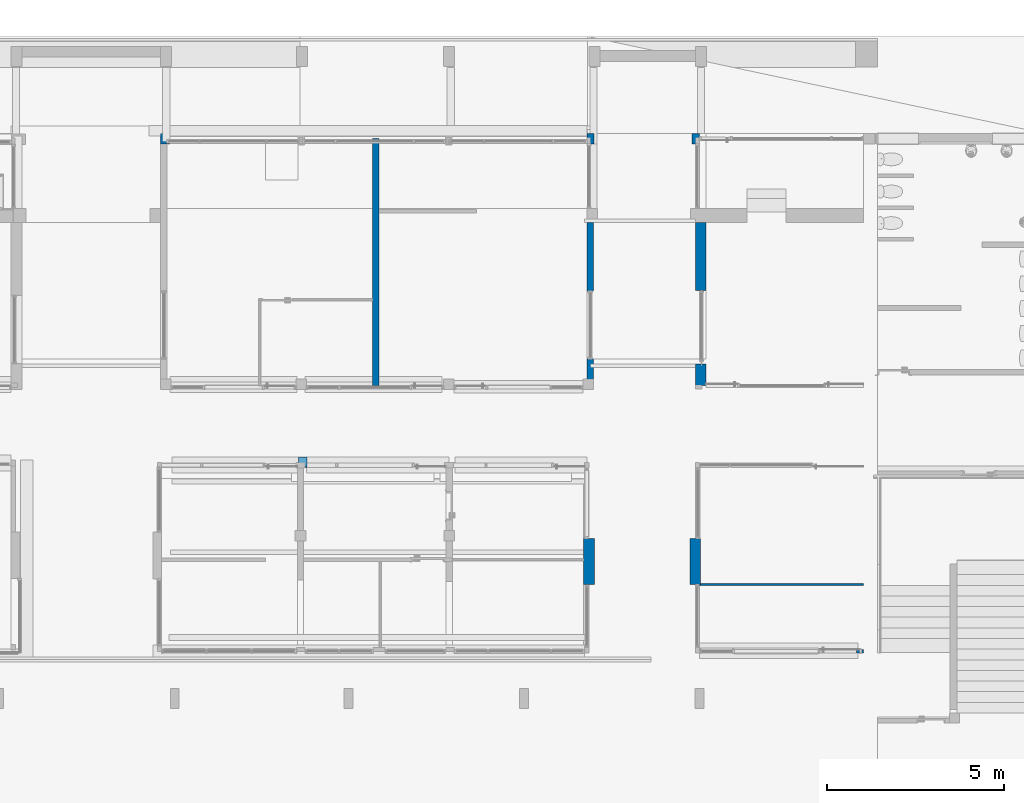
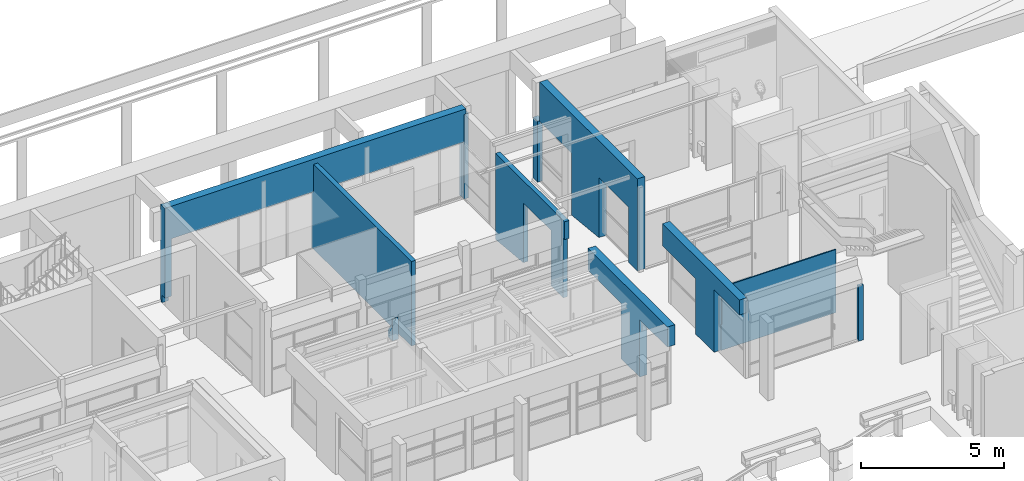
# One storey, part 90 of 117: 11 walls, 6 openings.
"""IFC4 building model written with IfcOpenShell, lengths in metres."""

from ifc_helpers import new_model, entity, si_unit, converted_unit, derived_unit, direction, frame, origin, place, context, subcontext, project, spatial, indexed_curve, outline, extrude, polygons, material, type_object, element, save


model = new_model("IFC4")

# Units and contexts
model_context = context("Model", 3, precision=1e-05, world=origin(), true_north=direction((6.123031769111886e-17, 1.0)))
body_context = subcontext(model_context, "Body", "Model", "MODEL_VIEW")
ifc_project = project(units=[si_unit("LENGTHUNIT", "METRE"), si_unit("AREAUNIT", "SQUARE_METRE"), si_unit("VOLUMEUNIT", "CUBIC_METRE"), converted_unit("PLANEANGLEUNIT", "DEGREE", entity("IfcRatioMeasure", 0.017453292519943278), si_unit("PLANEANGLEUNIT", "RADIAN"), dimensions=[0, 0, 0, 0, 0, 0, 0]), si_unit("MASSUNIT", "GRAM", prefix="KILO"), derived_unit("MASSDENSITYUNIT", [(si_unit("MASSUNIT", "GRAM", prefix="KILO"), 1), (si_unit("LENGTHUNIT", "METRE"), -3)]), derived_unit("MOMENTOFINERTIAUNIT", [(si_unit("LENGTHUNIT", "METRE"), 4)]), si_unit("TIMEUNIT", "SECOND"), si_unit("FREQUENCYUNIT", "HERTZ"), si_unit("THERMODYNAMICTEMPERATUREUNIT", "DEGREE_CELSIUS"), derived_unit("THERMALTRANSMITTANCEUNIT", [(si_unit("MASSUNIT", "GRAM", prefix="KILO"), 1), (si_unit("THERMODYNAMICTEMPERATUREUNIT", "KELVIN"), -1), (si_unit("TIMEUNIT", "SECOND"), -3)]), derived_unit("VOLUMETRICFLOWRATEUNIT", [(si_unit("LENGTHUNIT", "METRE"), 3), (si_unit("TIMEUNIT", "SECOND"), -1)]), derived_unit("MASSFLOWRATEUNIT", [(si_unit("MASSUNIT", "GRAM", prefix="KILO"), 1), (si_unit("TIMEUNIT", "SECOND"), -1)]), derived_unit("ROTATIONALFREQUENCYUNIT", [(si_unit("TIMEUNIT", "SECOND"), -1)]), si_unit("ELECTRICCURRENTUNIT", "AMPERE"), si_unit("ELECTRICVOLTAGEUNIT", "VOLT"), si_unit("POWERUNIT", "WATT"), si_unit("FORCEUNIT", "NEWTON", prefix="KILO"), si_unit("ILLUMINANCEUNIT", "LUX"), si_unit("LUMINOUSFLUXUNIT", "LUMEN"), si_unit("LUMINOUSINTENSITYUNIT", "CANDELA"), derived_unit("USERDEFINED", [(si_unit("MASSUNIT", "GRAM", prefix="KILO"), -1), (si_unit("LENGTHUNIT", "METRE"), -2), (si_unit("TIMEUNIT", "SECOND"), 3), (si_unit("LUMINOUSFLUXUNIT", "LUMEN"), 1)]), derived_unit("SOUNDPOWERUNIT", [(si_unit("MASSUNIT", "GRAM", prefix="KILO"), 1), (si_unit("LENGTHUNIT", "METRE"), 2), (si_unit("TIMEUNIT", "SECOND"), -3)]), derived_unit("SOUNDPRESSUREUNIT", [(si_unit("MASSUNIT", "GRAM", prefix="KILO"), 1), (si_unit("LENGTHUNIT", "METRE"), -1), (si_unit("TIMEUNIT", "SECOND"), -2)]), derived_unit("LINEARVELOCITYUNIT", [(si_unit("LENGTHUNIT", "METRE"), 1), (si_unit("TIMEUNIT", "SECOND"), -1)]), si_unit("PRESSUREUNIT", "PASCAL"), derived_unit("USERDEFINED", [(si_unit("LENGTHUNIT", "METRE"), -2), (si_unit("MASSUNIT", "GRAM", prefix="KILO"), 1), (si_unit("TIMEUNIT", "SECOND"), -2)]), derived_unit("LINEARFORCEUNIT", [(si_unit("MASSUNIT", "GRAM", prefix="KILO"), 1), (si_unit("LENGTHUNIT", "METRE"), 1), (si_unit("TIMEUNIT", "SECOND"), -2), (si_unit("LENGTHUNIT", "METRE"), -1)]), derived_unit("PLANARFORCEUNIT", [(si_unit("MASSUNIT", "GRAM", prefix="KILO"), 1), (si_unit("LENGTHUNIT", "METRE"), 1), (si_unit("TIMEUNIT", "SECOND"), -2), (si_unit("LENGTHUNIT", "METRE"), -2)])], contexts=[model_context])

# Site, building, storey
site_placement = place(None, origin())
site = spatial("IfcSite", under=ifc_project, at=site_placement, Name="Superficie", CompositionType="ELEMENT")
building_placement = place(site_placement, origin())
building = spatial("IfcBuilding", under=site, at=building_placement, CompositionType="ELEMENT")
storey_placement = place(building_placement, origin())
storey = spatial("IfcBuildingStorey", under=building, at=storey_placement, Name="Nivel 0", CompositionType="ELEMENT", Elevation=0.0)

# Walls
ifc_material = material(Name="Muro por defecto", Category="Varios")
wall_type_1 = type_object("IfcWallType", Name="Muro básico:Por defecto - 20 cm", PredefinedType="STANDARD")
wall_1_placement = place(storey_placement, frame((15.85600195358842, 12.884548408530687, -0.31902683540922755), z_axis=(0.0, 0.0, 1.0), x_axis=(0.0, -1.0, 0.0)))
element("IfcWall", 1, at=wall_1_placement, inside=storey, type_object=wall_type_1, material=ifc_material, Name="Muro básico:Por defecto - 20 cm", ObjectType="Muro básico:Por defecto - 20 cm", PredefinedType="NOTDEFINED", context=body_context, shape_type="Tessellation", body=[
    polygons([(1.0828671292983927e-14, -0.10000000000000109, 0.0), (0.2999999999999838, -0.10000000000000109, 6.767919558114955e-17), (0.2999999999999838, -0.10000000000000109, 2.599026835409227), (1.0828671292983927e-14, -0.10000000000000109, 2.599026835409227), (4.331468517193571e-15, 0.09999999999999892, 6.767919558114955e-17), (1.0828671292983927e-14, 0.09999999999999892, 2.599026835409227), (0.2999999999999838, 0.09999999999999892, 2.599026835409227), (0.2999999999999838, 0.09999999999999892, 0.0)], [[[1, 2, 3, 4]], [[5, 6, 7, 8]], [[3, 2, 8, 7]], [[4, 3, 7, 6]], [[1, 4, 6, 5]], [[2, 1, 5, 8]]], closed=True),
])
wall_2_placement = place(storey_placement, frame((12.89179901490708, 13.10545891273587, 0.0), z_axis=(0.0, 0.0, 1.0), x_axis=(0.0, -1.0, 0.0)))
element("IfcWall", 2, at=wall_2_placement, inside=storey, type_object=wall_type_1, material=ifc_material, Name="Muro básico:Por defecto - 20 cm", ObjectType="Muro básico:Por defecto - 20 cm", PredefinedType="NOTDEFINED", context=body_context, shape_type="Tessellation", body=[
    polygons([(0.220910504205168, -0.10000000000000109, 0.0), (0.5209105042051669, -0.10000000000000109, 0.0), (0.5209105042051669, -0.10000000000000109, 2.44), (0.5209105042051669, -0.10000000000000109, 3.5999999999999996), (0.3000000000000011, -0.10000000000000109, 3.6), (0.220910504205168, -0.10000000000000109, 3.6), (0.0, -0.10000000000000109, 3.5999999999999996), (0.0, -0.10000000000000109, 2.35), (0.220910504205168, -0.10000000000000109, 2.35), (0.220910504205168, 0.09999999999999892, 0.0), (0.220910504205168, 0.09999999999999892, 2.35), (0.0, 0.09999999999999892, 2.35), (0.0, 0.09999999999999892, 3.5999999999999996), (0.5209105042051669, 0.09999999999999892, 3.5999999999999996), (0.5209105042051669, 0.09999999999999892, 0.0), (0.0, -0.01702776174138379, 3.5999999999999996)], [[[1, 2, 3, 4, 5, 6, 7, 8, 9]], [[10, 11, 12, 13, 14, 15]], [[2, 1, 10, 15]], [[4, 3, 2, 15, 14]], [[7, 6, 5, 4, 14, 13, 16]], [[8, 12, 11, 9]], [[1, 9, 11, 10]], [[7, 16, 13, 12, 8]]], closed=True),
])

# Wall, opening
wall_type_2 = type_object("IfcWallType", Name="Muro básico:Por defecto - 25 cm 2", PredefinedType="STANDARD")
wall_3_placement = place(storey_placement, frame((4.771001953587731, 3.4558292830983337, 2.3499999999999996), z_axis=(0.0, 0.0, 1.0), x_axis=(0.0, 1.0, 0.0)))
wall_3 = element("IfcWall", 3, at=wall_3_placement, inside=storey, type_object=wall_type_2, material=ifc_material, Name="Muro básico:Por defecto - 25 cm 2", ObjectType="Muro básico:Por defecto - 25 cm 2", PredefinedType="NOTDEFINED", context=body_context, shape_type="Tessellation", body=[
    polygons([(0.0, -0.12499999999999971, 0.9399999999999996), (0.0, -0.12499999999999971, 2.707167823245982e-16), (0.30000000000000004, -0.12499999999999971, 2.707167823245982e-16), (0.30000000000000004, -0.12499999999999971, 0.30000000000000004), (0.019999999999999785, -0.12499999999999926, 0.738666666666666), (0.019999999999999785, -0.12499999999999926, 0.9399999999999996), (0.0, 0.12499999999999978, 2.707167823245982e-16), (0.0, 0.12499999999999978, 0.9399999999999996), (0.019999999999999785, 0.12499999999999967, 0.9399999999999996), (0.019999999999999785, 0.12499999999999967, 0.738666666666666), (0.30000000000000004, 0.12499999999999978, 0.30000000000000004), (0.30000000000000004, 0.12499999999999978, 2.707167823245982e-16)], [[[1, 2, 3, 4, 5, 6]], [[7, 8, 9, 10, 11, 12]], [[3, 2, 7, 12]], [[4, 3, 12, 11]], [[5, 4, 11, 10]], [[6, 5, 10, 9]], [[1, 6, 9, 8]], [[1, 8, 7, 2]]], closed=True),
])
opening_1_placement = place(wall_3_placement, origin())
element("IfcOpeningElement", 4, at=opening_1_placement, cuts=wall_3, Name="Muro básico:Por defecto - 25 cm 2", PredefinedType="OPENING", context=body_context, shape_type="SweptSolid", body=[
    extrude(outline(indexed_curve([(-0.4296666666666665, -0.14000000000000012), (0.21033333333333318, -0.14000000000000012), (0.21033333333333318, 0.13999999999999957), (0.008999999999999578, 0.13999999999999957), (-0.4296666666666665, -0.14000000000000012)], self_intersect=False)), frame((0.1599999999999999, 0.12499999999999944, 0.7296666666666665), z_axis=(0.0, -1.0, 0.0), x_axis=(0.0, 0.0, 1.0)), (0.0, 0.0, 1.0), 0.24999999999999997),
])

# Wall, openings
wall_type_3 = type_object("IfcWallType", Name="Muro básico:Por defecto - 30 cm", PredefinedType="STANDARD")
wall_4_placement = place(storey_placement, frame((12.846799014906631, 3.7558292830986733, 0.0), z_axis=(0.0, 0.0, 1.0), x_axis=(0.0, -1.0, 0.0)))
wall_4 = element("IfcWall", 5, at=wall_4_placement, inside=storey, type_object=wall_type_3, material=ifc_material, Name="Muro básico:Por defecto - 30 cm", ObjectType="Muro básico:Por defecto - 30 cm", PredefinedType="NOTDEFINED", context=body_context, shape_type="Tessellation", body=[
    polygons([(5.529999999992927, -0.14999999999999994, 3.3), (5.414335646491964e-16, -0.14999999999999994, 3.3), (5.414335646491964e-16, -0.14999999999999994, 2.3599999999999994), (2.3000000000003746, -0.15000000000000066, 2.3599999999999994), (2.3000000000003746, -0.15000000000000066, 0.0), (2.875000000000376, -0.14999999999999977, 0.0), (2.9250000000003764, -0.1499999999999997, 0.0), (3.6000000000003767, -0.1500000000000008, 0.0), (3.6000000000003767, -0.1500000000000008, 2.44), (5.529999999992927, -0.14999999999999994, 2.44), (5.414335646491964e-16, 0.15000000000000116, 3.3), (5.529999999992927, 0.15000000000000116, 3.3), (5.529999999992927, 0.15000000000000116, 2.44), (3.6000000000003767, 0.15000000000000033, 2.44), (3.6000000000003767, 0.15000000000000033, 0.0), (2.300000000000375, 0.15000000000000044, 0.0), (2.300000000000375, 0.15000000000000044, 2.3599999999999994), (5.414335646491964e-16, 0.15000000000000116, 2.3599999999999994)], [[[1, 2, 3, 4, 5, 6, 7, 8, 9, 10]], [[11, 12, 13, 14, 15, 16, 17, 18]], [[5, 16, 15, 8, 7, 6]], [[12, 1, 10, 13]], [[2, 1, 12, 11]], [[2, 11, 18, 3]], [[17, 4, 3, 18]], [[4, 17, 16, 5]], [[9, 14, 13, 10]], [[14, 9, 8, 15]]], closed=True),
])
opening_2_placement = place(wall_4_placement, origin())
element("IfcOpeningElement", 6, at=opening_2_placement, cuts=wall_4, Name="Muro básico:Por defecto - 30 cm", PredefinedType="OPENING", context=body_context, shape_type="SweptSolid", body=[
    extrude(outline(indexed_curve([(-1.2052431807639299, -1.1749422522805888), (1.2052431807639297, -1.1749422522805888), (1.2052431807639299, 1.1749422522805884), (-1.2052431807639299, 1.1749422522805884), (-1.2052431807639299, -1.1749422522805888)], self_intersect=False)), frame((1.1250577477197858, -0.15000000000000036, 1.1547568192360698), z_axis=(0.0, 1.0, 0.0), x_axis=(0.0, 0.0, -1.0)), (0.0, 0.0, 1.0), 0.3000000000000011),
])
opening_3_placement = place(wall_4_placement, origin())
element("IfcOpeningElement", 7, at=opening_3_placement, cuts=wall_4, Name="Muro básico:Por defecto - 30 cm", PredefinedType="OPENING", context=body_context, shape_type="SweptSolid", body=[
    extrude(outline(indexed_curve([(-1.4129844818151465, -1.3629754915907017), (1.4129844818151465, -1.3629754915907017), (1.4129844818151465, 1.3629754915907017), (-1.4129844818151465, 1.3629754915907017), (-1.4129844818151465, -1.3629754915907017)], self_intersect=False)), frame((4.962975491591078, -0.15000000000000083, 1.0270155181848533), z_axis=(0.0, 1.0, 0.0), x_axis=(0.0, 0.0, -1.0)), (0.0, 0.0, 1.0), 0.3000000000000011),
])

wall_5_placement = place(storey_placement, frame((15.84179901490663, 3.7558292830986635, 0.0), z_axis=(0.0, 0.0, 1.0), x_axis=(0.0, -1.0, 0.0)))
wall_5 = element("IfcWall", 8, at=wall_5_placement, inside=storey, type_object=wall_type_3, material=ifc_material, Name="Muro básico:Por defecto - 30 cm", ObjectType="Muro básico:Por defecto - 30 cm", PredefinedType="NOTDEFINED", context=body_context, shape_type="Tessellation", body=[
    polygons([(5.3600000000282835, -0.1500000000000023, 3.3), (5.414335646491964e-16, -0.14999999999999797, 3.3), (0.0, -0.14999999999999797, 2.3599999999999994), (2.3000000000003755, -0.15000000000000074, 2.3599999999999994), (2.3000000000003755, -0.15000000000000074, 0.0), (3.5949999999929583, -0.1500000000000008, 0.0), (3.594999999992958, -0.1500000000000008, 1.1), (3.6199999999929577, -0.15000000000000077, 1.1), (3.6199999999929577, -0.15000000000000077, 2.6599999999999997), (5.3600000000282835, -0.1500000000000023, 2.6599999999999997), (1.0828671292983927e-15, 0.15000000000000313, 3.3), (5.3600000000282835, 0.1499999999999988, 3.3), (5.3600000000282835, 0.1499999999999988, 2.6599999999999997), (3.619999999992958, 0.15000000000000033, 2.6599999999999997), (3.619999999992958, 0.15000000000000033, 1.1), (3.594999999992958, 0.1500000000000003, 1.1), (3.594999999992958, 0.1500000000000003, 0.0), (3.5699999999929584, 0.15000000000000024, 0.0), (2.300000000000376, 0.15000000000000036, 0.0), (2.300000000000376, 0.15000000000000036, 2.3599999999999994), (1.0828671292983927e-15, 0.15000000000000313, 2.3599999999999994), (3.5949999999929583, 0.12499999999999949, 0.0), (3.5949999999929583, 0.004999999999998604, 0.0), (2.3000000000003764, 0.014999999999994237, 0.0), (2.300000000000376, 0.13499999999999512, 0.0), (3.594999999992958, 0.12499999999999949, 1.1), (3.619999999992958, 0.12499999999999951, 1.1)], [[[1, 2, 3, 4, 5, 6, 7, 8, 9, 10]], [[11, 12, 13, 14, 15, 16, 17, 18, 19, 20, 21]], [[17, 22, 23, 6, 5, 24, 25, 19, 18]], [[12, 1, 10, 13]], [[2, 1, 12, 11]], [[2, 11, 21, 3]], [[9, 14, 13, 10]], [[20, 4, 3, 21]], [[4, 20, 19, 25, 24, 5]], [[7, 6, 23, 22, 17, 16, 26]], [[15, 27, 8, 7, 26, 16]], [[14, 9, 8, 27, 15]]], closed=True),
])
opening_4_placement = place(wall_5_placement, origin())
element("IfcOpeningElement", 9, at=opening_4_placement, cuts=wall_5, Name="Muro básico:Por defecto - 30 cm", PredefinedType="OPENING", context=body_context, shape_type="SweptSolid", body=[
    extrude(outline(indexed_curve([(-1.3375570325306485, -0.9278432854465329), (1.3375570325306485, -0.9278432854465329), (1.3375570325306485, 0.9278432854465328), (-1.3375570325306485, 0.9278432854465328), (-1.3375570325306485, -0.9278432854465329)], self_intersect=False)), frame((4.522843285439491, -0.14999999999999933, 1.322442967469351), z_axis=(0.0, 1.0, 0.0), x_axis=(0.0, 0.0, -1.0)), (0.0, 0.0, 1.0), 0.3000000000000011),
])
opening_5_placement = place(wall_5_placement, origin())
element("IfcOpeningElement", 10, at=opening_5_placement, cuts=wall_5, Name="Muro básico:Por defecto - 30 cm", PredefinedType="OPENING", context=body_context, shape_type="SweptSolid", body=[
    extrude(outline(indexed_curve([(-1.22524318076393, -1.174942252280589), (1.22524318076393, -1.174942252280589), (1.22524318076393, 1.174942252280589), (-1.22524318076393, 1.174942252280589), (-1.22524318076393, -1.174942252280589)], self_intersect=False)), frame((1.1250577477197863, -0.15000000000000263, 1.1347568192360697), z_axis=(0.0, 1.0, 0.0), x_axis=(0.0, 0.0, -1.0)), (0.0, 0.0, 1.0), 0.3000000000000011),
])

# Walls
wall_6_placement = place(storey_placement, frame((15.996799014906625, 5.775829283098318, -0.4025952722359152), z_axis=(0.0, 0.0, 1.0), x_axis=(0.0, 1.0, 0.0)))
element("IfcWall", 11, at=wall_6_placement, inside=storey, type_object=wall_type_3, material=ifc_material, Name="Muro básico:Por defecto - 30 cm", ObjectType="Muro básico:Por defecto - 30 cm", PredefinedType="NOTDEFINED", context=body_context, shape_type="Tessellation", body=[
    polygons([(6.8087191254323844, -0.1499999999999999, 4.322595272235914), (0.0, -0.14999999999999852, 4.322595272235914), (1.2994405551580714e-14, -0.14999999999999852, 0.4025952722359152), (0.6009210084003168, -0.14999999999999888, 0.4025952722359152), (0.6009210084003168, -0.14999999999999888, 2.75194204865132), (2.6796147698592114, -0.1499999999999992, 2.75194204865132), (2.6796147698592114, -0.1499999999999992, 0.20088215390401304), (2.892435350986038, -0.14999999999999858, 0.1787391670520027), (3.1052559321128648, -0.14999999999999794, 0.15659618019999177), (3.318076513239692, -0.14999999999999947, 0.13445319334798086), (3.53089709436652, -0.14999999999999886, 0.11231020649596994), (3.7437176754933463, -0.1499999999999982, 0.09016721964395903), (3.9565382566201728, -0.14999999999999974, 0.06802423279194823), (4.1693588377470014, -0.1499999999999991, 0.045881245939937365), (4.382179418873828, -0.14999999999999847, 0.023738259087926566), (4.595000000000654, -0.14999999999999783, 0.0015952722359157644), (4.595000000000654, -0.14999999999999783, 0.40259527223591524), (4.595000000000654, -0.14999999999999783, 2.6425952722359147), (6.808719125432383, -0.1499999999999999, 2.6425952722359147), (1.2994405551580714e-14, 0.1500000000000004, 4.322595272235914), (6.8087191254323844, 0.14999999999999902, 4.322595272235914), (6.8087191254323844, 0.14999999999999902, 2.6425952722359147), (4.595000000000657, 0.1500000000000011, 2.6425952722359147), (4.595000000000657, 0.1500000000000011, 0.0042599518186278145), (4.382179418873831, 0.15000000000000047, 0.026255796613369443), (4.169358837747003, 0.14999999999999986, 0.04825164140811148), (3.956538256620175, 0.1499999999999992, 0.07024748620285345), (3.7437176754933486, 0.15000000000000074, 0.09224333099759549), (3.5308970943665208, 0.1500000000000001, 0.11423917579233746), (3.3180765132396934, 0.14999999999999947, 0.13623502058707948), (3.1052559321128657, 0.15000000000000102, 0.15823086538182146), (2.892435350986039, 0.15000000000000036, 0.1802267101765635), (2.6796147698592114, 0.14999999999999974, 0.2022225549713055), (2.6796147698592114, 0.14999999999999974, 2.75194204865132), (0.6009210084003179, 0.15000000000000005, 2.75194204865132), (0.6009210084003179, 0.15000000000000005, 0.4025952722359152), (1.2994405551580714e-14, 0.1500000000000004, 0.4025952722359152), (2.6796147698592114, 0.09000000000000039, 0.2019544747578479), (2.6796147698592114, 0.02999999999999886, 0.20168639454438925), (2.6796147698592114, -0.030000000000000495, 0.20141831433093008), (2.6796147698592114, -0.08999999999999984, 0.20115023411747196), (4.595000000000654, -0.07499999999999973, 0.0022614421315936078), (4.595000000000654, 5.53205284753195e-16, 0.0029276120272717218), (4.595000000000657, 0.07500000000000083, 0.0035937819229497), (3.622409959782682, 4.959957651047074e-08, 0.10378484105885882)], [[[7, 8, 9, 10, 11, 12, 13, 14, 15, 16, 17, 18, 19, 1, 2, 3, 4, 5, 6]], [[24, 25, 26, 27, 28, 29, 30, 31, 32, 33, 34, 35, 36, 37, 20, 21, 22, 23]], [[4, 3, 37, 36]], [[5, 35, 34, 6]], [[23, 22, 19, 18]], [[38, 39, 40, 41, 7, 6, 34, 33]], [[37, 3, 2, 20]], [[44, 24, 23, 18, 17, 16, 42, 43]], [[19, 22, 21, 1]], [[5, 4, 36, 35]], [[20, 2, 1, 21]], [[8, 7, 41, 10, 9]], [[45, 44, 43, 42]], [[41, 45, 10]], [[45, 13, 12, 11, 10]], [[38, 33, 32, 31, 30]], [[45, 41, 40, 39, 38]], [[38, 30, 45]], [[45, 42, 13]], [[14, 13, 42, 16, 15]], [[29, 28, 27, 45, 30]], [[25, 24, 44, 27, 26]], [[44, 45, 27]]], closed=True),
])
wall_7_placement = place(storey_placement, frame((12.874771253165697, 12.734548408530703, -0.31902683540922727), z_axis=(0.0, 0.0, 1.0), x_axis=(-1.0, 0.0, 0.0)))
element("IfcWall", 12, at=wall_7_placement, inside=storey, type_object=wall_type_3, material=ifc_material, Name="Muro básico:Por defecto - 30 cm", ObjectType="Muro básico:Por defecto - 30 cm", PredefinedType="NOTDEFINED", context=body_context, shape_type="Tessellation", body=[
    polygons([(12.113219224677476, -0.14999999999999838, 0.08658927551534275), (12.113219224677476, -0.14999999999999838, 4.139026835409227), (12.053219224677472, -0.14999999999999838, 4.1390268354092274), (11.85321922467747, -0.15000000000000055, 4.139026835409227), (11.613769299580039, -0.14999999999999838, 4.139026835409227), (3.5379722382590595, -0.14999999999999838, 4.139026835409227), (6.025727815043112e-16, -0.14999999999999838, 4.139026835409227), (6.025727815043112e-16, -0.14999999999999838, 3.9190268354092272), (0.08297223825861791, -0.14999999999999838, 3.9190268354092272), (0.08297223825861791, -0.14999999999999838, 2.759026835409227), (11.853219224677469, -0.15000000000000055, 2.759026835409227), (11.85321922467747, -0.15000000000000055, 0.08275362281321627), (12.113219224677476, 0.15000000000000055, 4.139026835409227), (12.113219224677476, 0.15000000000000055, 0.31902683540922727), (11.85321922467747, 0.14999999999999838, 0.31902683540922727), (11.85321922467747, 0.14999999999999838, 2.759026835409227), (6.133219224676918, 0.15000000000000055, 2.759026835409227), (5.953219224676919, 0.15000000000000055, 2.759026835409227), (0.08297223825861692, 0.15000000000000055, 2.759026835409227), (0.08297223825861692, 0.15000000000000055, 3.9190268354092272), (-3.695573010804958e-16, 0.15000000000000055, 3.9190268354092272), (-3.695573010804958e-16, 0.15000000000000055, 4.139026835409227), (3.537972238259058, 0.15000000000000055, 4.139026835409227), (11.613769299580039, 0.15000000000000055, 4.139026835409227), (11.933219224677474, 0.15000000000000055, 4.1390268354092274), (11.853219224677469, -0.1362808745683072, -1.353583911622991e-16), (12.113219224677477, -0.13628087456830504, -2.0303758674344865e-16), (12.113219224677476, -0.13628087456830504, 0.08658927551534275), (11.853219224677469, -0.1362808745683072, 0.08275362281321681), (12.113219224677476, -0.0571913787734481, -2.0303758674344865e-16), (12.113219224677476, -0.0571913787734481, 0.31902683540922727), (12.113219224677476, 0.0, 4.139026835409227), (11.85321922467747, -0.05719137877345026, 0.3190268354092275), (11.85321922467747, -0.05719137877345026, -1.353583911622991e-16)], [[[1, 2, 3, 4, 5, 6, 7, 8, 9, 10, 11, 12]], [[13, 14, 15, 16, 17, 18, 19, 20, 21, 22, 23, 24, 25]], [[16, 11, 10, 19, 18, 17]], [[26, 27, 28, 29]], [[2, 1, 28, 27, 30, 31, 14, 13, 32]], [[28, 1, 12, 29]], [[14, 31, 33, 15]], [[33, 31, 30, 34]], [[11, 16, 15, 33, 34, 26, 29, 12]], [[7, 6, 23, 22]], [[5, 4, 3, 2, 32, 13, 25, 24]], [[6, 5, 24, 23]], [[30, 27, 26, 34]], [[8, 21, 20, 9]], [[19, 10, 9, 20]], [[7, 22, 21, 8]]], closed=True),
])
wall_type_4 = type_object("IfcWallType", Name="Muro básico:Por defecto - 18 cm 2", PredefinedType="STANDARD")
wall_8_placement = place(storey_placement, frame((12.881799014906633, 5.5567397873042, -0.37439407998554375), z_axis=(0.0, 0.0, 1.0), x_axis=(0.0, 1.0, 0.0)))
element("IfcWall", 13, at=wall_8_placement, inside=storey, type_object=wall_type_4, material=ifc_material, Name="Muro básico:Por defecto - 18 cm 2", ObjectType="Muro básico:Por defecto - 18 cm 2", PredefinedType="NOTDEFINED", context=body_context, shape_type="Tessellation", body=[
    polygons([(4.814089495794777, -0.09000000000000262, 0.0015952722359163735), (4.814089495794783, -0.09000000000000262, 3.6743940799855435), (0.0, -0.0900000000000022, 3.6743940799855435), (0.0, -0.0900000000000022, 2.9143940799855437), (0.1, -0.09000000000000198, 2.9143940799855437), (0.1, -0.09000000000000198, 0.37439407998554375), (0.9599999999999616, -0.09000000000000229, 0.37439407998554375), (0.9599999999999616, -0.09000000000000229, 2.734394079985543), (2.877233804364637, -0.09000000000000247, 2.734394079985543), (2.877233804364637, -0.09000000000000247, 0.18894367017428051), (3.0924399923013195, -0.09000000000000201, 0.16812718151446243), (3.307646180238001, -0.09000000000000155, 0.14731069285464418), (3.5228523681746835, -0.09000000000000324, 0.1264942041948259), (3.738058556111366, -0.09000000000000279, 0.10567771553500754), (3.953264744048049, -0.09000000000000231, 0.08486122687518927), (4.16847093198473, -0.09000000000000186, 0.06404473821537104), (4.383677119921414, -0.09000000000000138, 0.04322824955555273), (4.598883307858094, -0.09000000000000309, 0.02241176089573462), (4.814089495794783, 0.08999999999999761, 3.6743940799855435), (4.814089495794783, 0.08999999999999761, 0.0031940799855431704), (4.598883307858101, 0.08999999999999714, 0.023921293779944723), (4.383677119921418, 0.08999999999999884, 0.04464850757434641), (4.168470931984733, 0.08999999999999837, 0.0653757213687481), (3.953264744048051, 0.08999999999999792, 0.08610293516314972), (3.738058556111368, 0.08999999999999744, 0.10683014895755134), (3.5228523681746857, 0.08999999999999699, 0.12755736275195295), (3.307646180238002, 0.08999999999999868, 0.1482845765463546), (3.0924399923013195, 0.08999999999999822, 0.1690117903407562), (2.877233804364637, 0.08999999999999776, 0.1897390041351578), (2.877233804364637, 0.08999999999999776, 2.734394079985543), (0.9599999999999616, 0.08999999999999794, 2.734394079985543), (0.9599999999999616, 0.08999999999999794, 0.37439407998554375), (0.1, 0.08999999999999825, 0.37439407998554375), (0.1, 0.08999999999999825, 2.9143940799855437), (0.0, 0.08999999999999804, 2.9143940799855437), (0.0, 0.08999999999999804, 3.6743940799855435), (2.877233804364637, 0.0299999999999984, 0.18947389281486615), (2.877233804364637, -0.030000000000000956, 0.18920878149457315), (4.814089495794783, -0.0300000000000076, 0.0021282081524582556), (4.814089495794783, 0.029999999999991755, 0.002661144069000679), (3.630455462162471, 1.843389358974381e-12, 0.11663985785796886), (4.241343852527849, 1.5361719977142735e-10, 0.057676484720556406)], [[[6, 7, 8, 9, 10, 11, 12, 13, 14, 15, 16, 17, 18, 1, 2, 3, 4, 5]], [[19, 20, 21, 22, 23, 24, 25, 26, 27, 28, 29, 30, 31, 32, 33, 34, 35, 36]], [[7, 6, 33, 32]], [[8, 31, 30, 9]], [[4, 35, 34, 5]], [[3, 2, 19, 36]], [[4, 3, 36, 35]], [[37, 38, 10, 9, 30, 29]], [[33, 6, 5, 34]], [[7, 32, 31, 8]], [[40, 20, 19, 2, 1, 39]], [[11, 10, 38, 12]], [[12, 38, 41]], [[13, 12, 41, 15, 14]], [[28, 27, 37, 29]], [[41, 27, 26, 25, 24]], [[41, 37, 27]], [[41, 38, 37]], [[15, 41, 24, 42]], [[42, 17, 16, 15]], [[39, 17, 42]], [[39, 1, 18, 17]], [[42, 40, 39]], [[22, 42, 24, 23]], [[20, 40, 22, 21]], [[22, 40, 42]]], closed=True),
])
wall_9_placement = place(storey_placement, frame((6.831552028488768, 5.76673978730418, 0.0), z_axis=(0.0, 0.0, 1.0), x_axis=(0.0, 1.0, 0.0)))
element("IfcWall", 14, at=wall_9_placement, inside=storey, type_object=wall_type_4, material=ifc_material, Name="Muro básico:Por defecto - 18 cm 2", ObjectType="Muro básico:Por defecto - 18 cm 2", PredefinedType="NOTDEFINED", context=body_context, shape_type="Tessellation", body=[
    polygons([(0.0, -0.09000000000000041, 0.0), (4.875000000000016, -0.09000000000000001, 0.0), (4.975000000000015, -0.08999999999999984, 0.0), (6.967808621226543, -0.08999999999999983, 0.0), (6.967808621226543, -0.08999999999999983, 2.44), (6.817808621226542, -0.09000000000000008, 2.44), (6.817808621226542, -0.09000000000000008, 3.5999999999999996), (4.975000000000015, -0.08999999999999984, 3.5999999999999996), (4.875000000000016, -0.09000000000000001, 3.6), (0.0, -0.09000000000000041, 3.5999999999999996), (0.0, 0.08999999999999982, 0.0), (0.0, 0.08999999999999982, 3.5999999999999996), (2.4000000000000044, 0.08999999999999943, 3.5999999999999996), (2.450000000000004, 0.08999999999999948, 3.5999999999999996), (6.817808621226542, 0.09000000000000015, 3.5999999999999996), (6.817808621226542, 0.09000000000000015, 2.44), (6.967808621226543, 0.0900000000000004, 2.44), (6.967808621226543, 0.0900000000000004, 0.0), (2.450000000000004, 0.08999999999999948, 0.0), (2.4000000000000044, 0.08999999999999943, 0.0)], [[[1, 2, 3, 4, 5, 6, 7, 8, 9, 10]], [[11, 12, 13, 14, 15, 16, 17, 18, 19, 20]], [[4, 3, 2, 1, 11, 20, 19, 18]], [[10, 9, 8, 7, 15, 14, 13, 12]], [[1, 10, 12, 11]], [[5, 4, 18, 17]], [[16, 6, 5, 17]], [[7, 6, 16, 15]]], closed=True),
])

# Wall, opening
wall_type_5 = type_object("IfcWallType", Name="Muro básico:Por defecto - 10 cm", PredefinedType="STANDARD")
wall_10_placement = place(storey_placement, frame((20.38679901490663, -1.7241707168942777, 0.0)))
wall_10 = element("IfcWall", 15, at=wall_10_placement, inside=storey, type_object=wall_type_5, material=ifc_material, Name="Muro básico:Por defecto - 10 cm", ObjectType="Muro básico:Por defecto - 10 cm", PredefinedType="NOTDEFINED", context=body_context, shape_type="Tessellation", body=[
    polygons([(0.19999999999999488, -0.05000000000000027, 0.0), (0.19999999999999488, -0.05000000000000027, 2.35), (1.363337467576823e-15, -0.05, 2.35), (1.363337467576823e-15, -0.05, 0.0), (0.1999999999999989, 0.04999999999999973, 2.35), (0.1999999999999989, 0.04999999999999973, 0.0), (1.042353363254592e-15, 0.05, 0.0), (1.042353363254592e-15, 0.05, 2.35)], [[[1, 2, 3, 4]], [[5, 6, 7, 8]], [[6, 1, 4, 7]], [[2, 5, 8, 3]], [[2, 1, 6, 5]], [[4, 3, 8, 7]]], closed=True),
])
opening_6_placement = place(wall_10_placement, origin())
element("IfcOpeningElement", 16, at=opening_6_placement, cuts=wall_10, Name="Muro básico:Por defecto - 10 cm", PredefinedType="OPENING", context=body_context, shape_type="SweptSolid", body=[
    extrude(outline(indexed_curve([(-1.3433148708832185, -2.210000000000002), (1.3433148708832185, -2.210000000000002), (1.3433148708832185, 2.2100000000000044), (-1.3433148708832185, 2.2100000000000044), (-1.3433148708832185, -2.210000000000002)], self_intersect=False)), frame((-2.210000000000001, -0.05, 1.3433148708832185), z_axis=(0.0, 1.0, 0.0), x_axis=(0.0, 0.0, -1.0)), (0.0, 0.0, 1.0), 0.1),
])

# Wall
wall_type_6 = type_object("IfcWallType", Name="Muro básico:Por defecto - 5 cm 2", PredefinedType="STANDARD")
wall_11_placement = place(storey_placement, frame((15.966799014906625, 0.1608292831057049, 0.0)))
element("IfcWall", 17, at=wall_11_placement, inside=storey, type_object=wall_type_6, material=ifc_material, Name="Muro básico:Por defecto - 5 cm 2", ObjectType="Muro básico:Por defecto - 5 cm 2", PredefinedType="NOTDEFINED", context=body_context, shape_type="Tessellation", body=[
    polygons([(-4.3887561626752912e-16, -0.02500000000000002, 0.0), (4.620000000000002, -0.02500000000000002, 0.0), (4.620000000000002, -0.02500000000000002, 2.683681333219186), (0.025000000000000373, -0.025000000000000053, 2.683681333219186), (0.025000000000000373, -0.025000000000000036, 2.6599999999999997), (0.025000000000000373, -0.025000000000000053, 1.1), (-4.3887561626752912e-16, -0.02500000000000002, 1.1), (0.025000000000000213, 0.024999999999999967, 0.0), (0.025000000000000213, 0.024999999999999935, 1.1), (0.025000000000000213, 0.024999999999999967, 2.683681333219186), (4.620000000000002, 0.024999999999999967, 2.683681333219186), (4.620000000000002, 0.024999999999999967, 0.0), (-5.196526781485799e-16, 1.353583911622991e-16, 0.0), (0.025000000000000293, 1.6919798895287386e-16, 0.0), (0.025000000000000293, 1.6919798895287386e-16, 1.1), (-5.196526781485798e-16, 1.0151879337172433e-16, 1.1), (-5.196526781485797e-16, 6.767919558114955e-17, 1.075)], [[[1, 2, 3, 4, 5, 6, 7]], [[8, 9, 10, 11, 12]], [[2, 1, 13, 14, 8, 12]], [[4, 3, 11, 10]], [[3, 2, 12, 11]], [[6, 15, 16, 7]], [[1, 7, 16, 17, 13]], [[6, 5, 4, 10, 9, 15]], [[16, 15, 14, 13, 17]], [[15, 9, 8, 14]]], closed=True),
])

save(model, "model.ifc")
